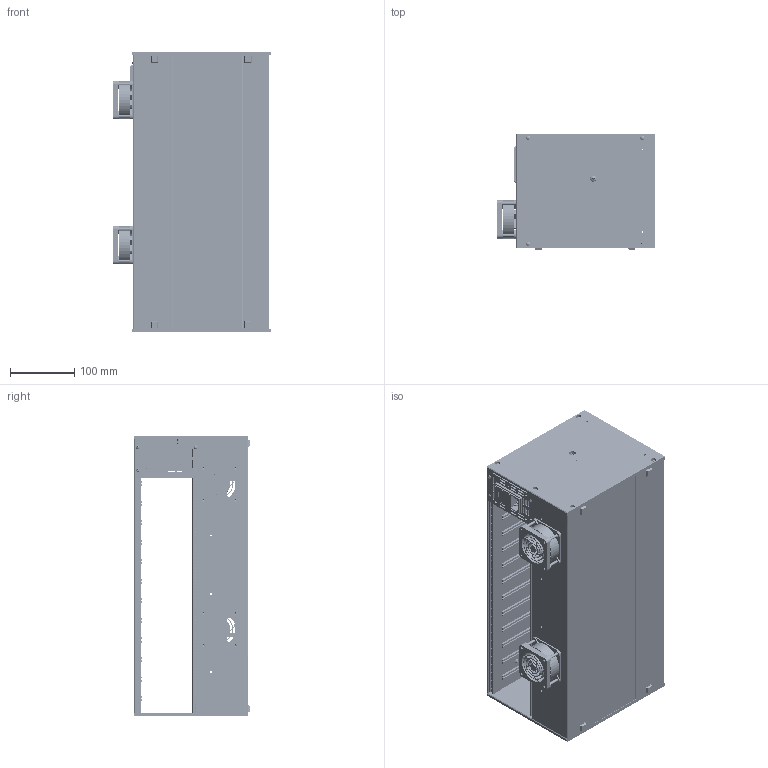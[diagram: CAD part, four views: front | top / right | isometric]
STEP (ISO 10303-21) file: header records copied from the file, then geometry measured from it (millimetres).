
FILE_DESCRIPTION((''),'2;1');
FILE_NAME('CU_CHASSIS_SCXI-1001','2010-01-22T',('lma'),(''),'PRO/ENGINEER BY PARAMETRIC TECHNOLOGY CORPORATION, 2006300','PRO/ENGINEER BY PARAMETRIC TECHNOLOGY CORPORATION, 2006300','');
FILE_SCHEMA(('CONFIG_CONTROL_DESIGN'));
Products named in the file (1): CU_CHASSIS_SCXI-1001
Bounding box: 247.7 x 180.09 x 438.15 mm (x, y, z)
Volume: 1857512.9 mm3; surface area: 1318780.3 mm2
Topology: 1 solids, 2 shells, 6632 faces, 16456 edges, 10561 vertices
Faces by surface type: cylinder 3183, plane 3005, bspline 280, cone 116, sphere 28, torus 20
Entity records: 205333 total; most frequent: CARTESIAN_POINT 42987, DIRECTION 35066, ORIENTED_EDGE 32320, EDGE_CURVE 16160, AXIS2_PLACEMENT_3D 13269, VERTEX_POINT 10827, VECTOR 8528, LINE 8528
